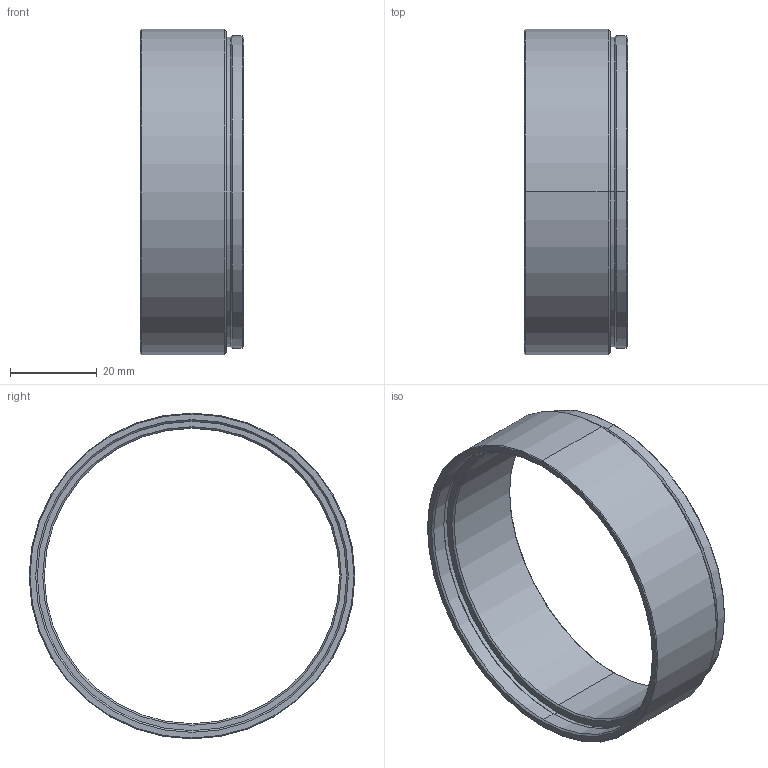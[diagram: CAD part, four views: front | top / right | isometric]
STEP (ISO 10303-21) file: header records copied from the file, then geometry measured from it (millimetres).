
FILE_DESCRIPTION (( 'STEP AP203' ), '1' );
FILE_NAME ('VS-MT-FB12.0.STEP', '2016-08-18T04:51:43', ( '' ), ( '' ), 'SwSTEP 2.0', 'SolidWorks 2016', '' );
FILE_SCHEMA (( 'CONFIG_CONTROL_DESIGN' ));
Length unit declared in the file: millimetre
Products named in the file (1): VS-MT-FB12.0
Bounding box: 23.8 x 75 x 75 mm (x, y, z)
Volume: 15252.3 mm3; surface area: 12227.1 mm2
Topology: 1 solids, 1 shells, 32 faces, 64 edges, 36 vertices
Faces by surface type: cone 16, cylinder 12, plane 4
Entity records: 905 total; most frequent: DIRECTION 166, CARTESIAN_POINT 133, ORIENTED_EDGE 128, AXIS2_PLACEMENT_3D 69, EDGE_CURVE 64, EDGE_LOOP 36, CIRCLE 36, VERTEX_POINT 36
